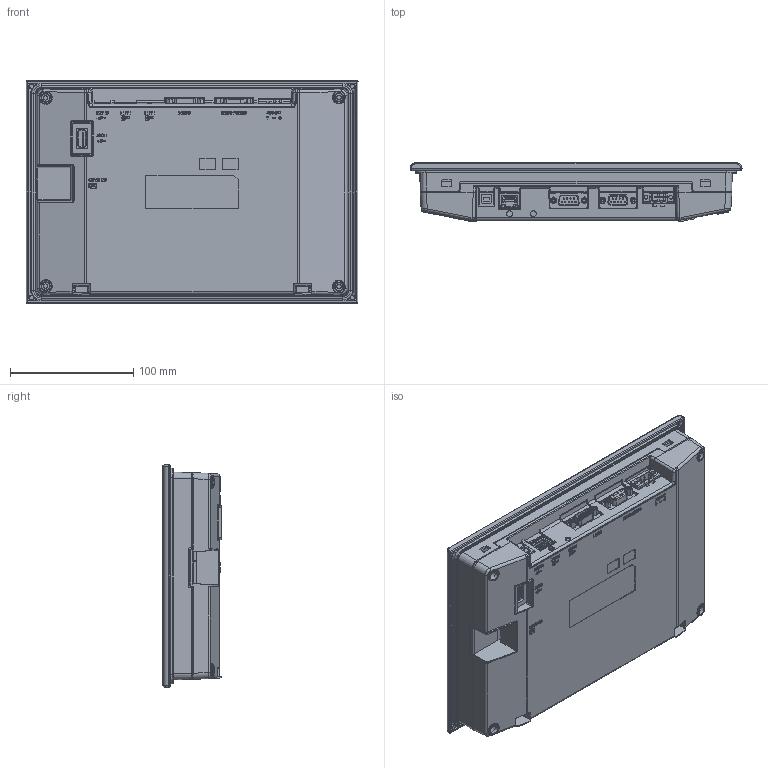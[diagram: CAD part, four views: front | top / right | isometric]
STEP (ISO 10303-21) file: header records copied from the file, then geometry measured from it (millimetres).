
FILE_DESCRIPTION((''),'2;1');
FILE_NAME('DOP-100-10','2016-08-09T',('EDISON.TANG'),(''),'PRO/ENGINEER BY PARAMETRIC TECHNOLOGY CORPORATION, 2013410','PRO/ENGINEER BY PARAMETRIC TECHNOLOGY CORPORATION, 2013410','');
FILE_SCHEMA(('CONFIG_CONTROL_DESIGN'));
Products named in the file (1): DOP-100-10
Bounding box: 269.89 x 47.25 x 180.89 mm (x, y, z)
Volume: 603136.4 mm3; surface area: 357603.8 mm2
Topology: 17 solids, 22 shells, 3718 faces, 9875 edges, 6321 vertices
Faces by surface type: plane 2539, cylinder 795, extrusion 102, bspline 98, cone 88, torus 62, sphere 34
Entity records: 125823 total; most frequent: CARTESIAN_POINT 35687, ORIENTED_EDGE 19742, DIRECTION 16760, EDGE_CURVE 9871, VECTOR 7426, LINE 7324, VERTEX_POINT 6321, AXIS2_PLACEMENT_3D 4667
